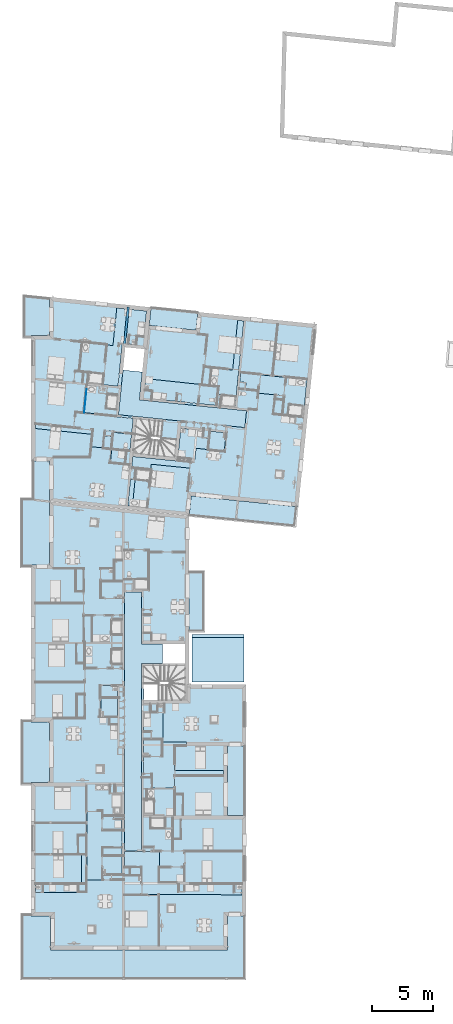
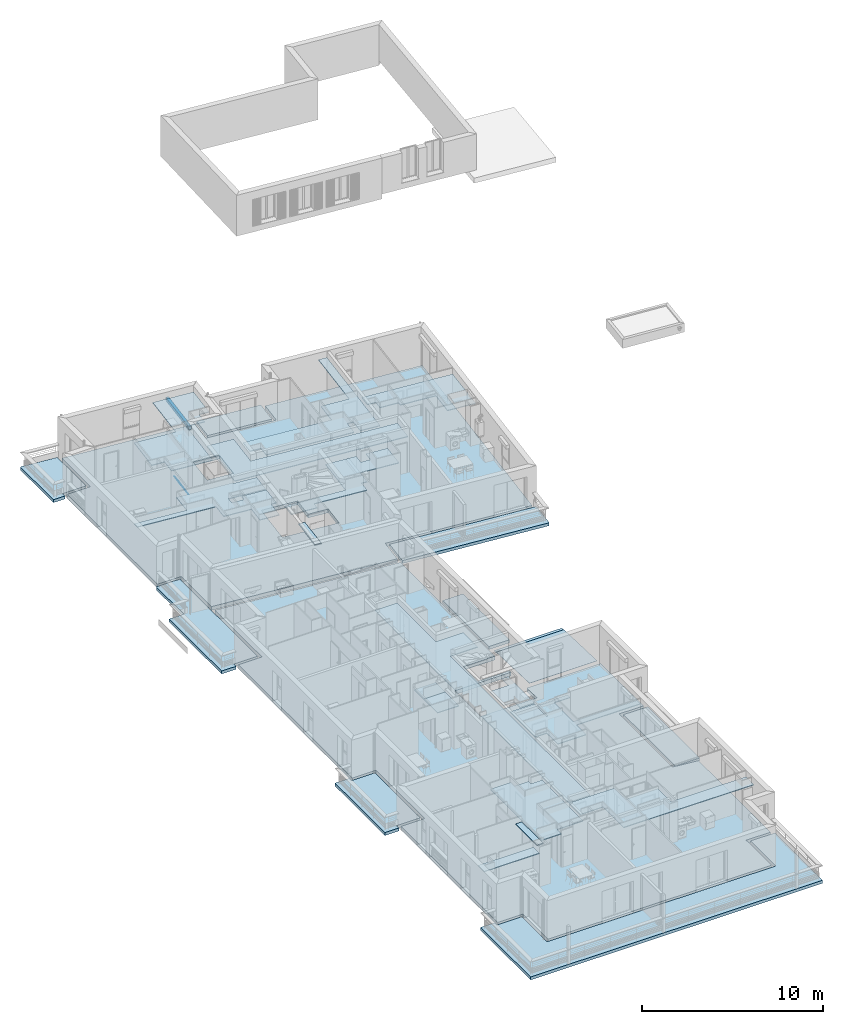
# One storey, part 2 of 164: 29 slabs, 1 beam.
"""IFC2X3 building model written with IfcOpenShell, lengths in millimetres."""

from ifc_helpers import new_model, entity, si_unit, converted_unit, derived_unit, money_unit, direction, frame, frame_2d, origin_with_axes, place, context, subcontext, project, spatial, polyline, rectangle, outline, extrude, material, layer, layer_set, layer_usage, type_object, element, save


model = new_model("IFC2X3")

# Units and contexts
model_context = context("Model", 3, precision=0.01, world=origin_with_axes(), true_north=direction((0.0, 1.0)))
body_context = subcontext(model_context, "Body", "Model", "MODEL_VIEW")
ifc_project = project(units=[si_unit("LENGTHUNIT", "METRE", prefix="MILLI"), si_unit("AREAUNIT", "SQUARE_METRE"), si_unit("VOLUMEUNIT", "CUBIC_METRE"), converted_unit("PLANEANGLEUNIT", "DEGREE", entity("IfcPlaneAngleMeasure", 0.0174532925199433), si_unit("PLANEANGLEUNIT", "RADIAN"), dimensions=[0, 0, 0, 0, 0, 0, 0]), money_unit("USD"), converted_unit("TIMEUNIT", "Year", entity("IfcTimeMeasure", 31557600.0), si_unit("TIMEUNIT", "SECOND"), dimensions=[0, 0, 1, 0, 0, 0, 0]), si_unit("MASSUNIT", "GRAM", prefix="KILO"), si_unit("THERMODYNAMICTEMPERATUREUNIT", "DEGREE_CELSIUS"), si_unit("LUMINOUSINTENSITYUNIT", "LUMEN"), si_unit("ENERGYUNIT", "JOULE", prefix="MEGA"), derived_unit("THERMALCONDUCTANCEUNIT", [(si_unit("POWERUNIT", "WATT"), 1), (si_unit("LENGTHUNIT", "METRE"), -1), (si_unit("THERMODYNAMICTEMPERATUREUNIT", "KELVIN"), -1)]), derived_unit("SPECIFICHEATCAPACITYUNIT", [(si_unit("ENERGYUNIT", "JOULE"), 1), (si_unit("MASSUNIT", "GRAM", prefix="KILO"), -1), (si_unit("THERMODYNAMICTEMPERATUREUNIT", "KELVIN"), -1)]), derived_unit("MASSDENSITYUNIT", [(si_unit("MASSUNIT", "GRAM", prefix="KILO"), 1), (si_unit("VOLUMEUNIT", "CUBIC_METRE"), -1)])], contexts=[model_context])

# Site, building, storey
site_placement = place(None, origin_with_axes())
site = spatial("IfcSite", under=ifc_project, at=site_placement, Name="Site", CompositionType="ELEMENT")
building_placement = place(site_placement, origin_with_axes())
building = spatial("IfcBuilding", under=site, at=building_placement, Name="Bâtiment", CompositionType="ELEMENT")
storey_placement = place(building_placement, frame((0.0, 0.0, 5750.0), z_axis=(0.0, 0.0, 1.0), x_axis=(1.0, 0.0, 0.0)))
storey = spatial("IfcBuildingStorey", under=building, at=storey_placement, Name="Etage1", CompositionType="ELEMENT", Elevation=5750.0)

# Beam
ifc_material_1 = material(Name="Brique 1 268964100")
beam_type = type_object("IfcBeamType", Name="Brique 1 268964100 180 x 200", PredefinedType="NOTDEFINED")
beam_placement = place(storey_placement, frame((2224318.58243006, -607940.9487510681, 2300.000000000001), z_axis=(0.0, 0.0, 1.0), x_axis=(0.9948759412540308, -0.1011032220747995, 0.0)))
element("IfcBeam", 1, at=beam_placement, inside=storey, type_object=beam_type, material=ifc_material_1, Name="Poutre-010", context=body_context, shape_type="SweptSolid", body=[
    extrude(rectangle(XDim=200.0, YDim=180.0, at=frame_2d((-100.0, 0.0), x_axis=(1.0, 0.0))), frame((0.0, 0.0, 0.0), z_axis=(0.0, 1.0, 0.0), x_axis=(0.0, 0.0, 1.0)), (0.0, 0.0, 1.0), 3119.999936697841),
])

# Slabs
ifc_material_2 = material(Name="100 % (2) 313493396")
ifc_layer_1 = layer(ifc_material_2, 50.0, ventilated="UNKNOWN")
ifc_layer_set_1 = layer_set([ifc_layer_1], Name="dalle 5")
ifc_layer_usage_1 = layer_usage(ifc_layer_set_1, "AXIS3", "NEGATIVE", 50.0)
slab_type_1 = type_object("IfcSlabType", Name="dalle 5 50", PredefinedType="FLOOR")
slab_1_placement = place(storey_placement, frame((2225892.318356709, -642533.5434742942, 2300.000000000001), z_axis=(0.0, 0.0, 1.0), x_axis=(1.0, 0.0, 0.0)))
element("IfcSlab", 2, at=slab_1_placement, inside=storey, type_object=slab_type_1, material=ifc_layer_usage_1, Name="Dalle-042", PredefinedType="FLOOR", context=body_context, shape_type="SweptSolid", body=[
    extrude(outline(polyline([(0.0, 0.0), (-0.005281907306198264, -749.5685941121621), (720.1120427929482, -749.6447132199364), (719.9840917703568, -1960.717417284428), (2538.332032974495, -1955.777904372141), (2538.332032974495, -889.0664764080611), (6574.339741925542, -891.8790627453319), (6574.339741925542, -518.6680570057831), (2538.332032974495, -518.6680570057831), (2538.332030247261, 1578.217935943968), (3542.494535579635, 1578.217935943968), (3542.494535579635, 1848.217935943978), (1590.000000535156, 1848.217935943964), (1590.000022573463, 643.9383600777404), (1520.000028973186, 643.9383600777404), (1520.000028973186, 2034.631520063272), (575.7473953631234, 2034.631520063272), (0.0, 2034.631520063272), (0.0, 0.0)])), frame((0.0, 0.0, -50.0), z_axis=(0.0, 0.0, 1.0), x_axis=(1.0, 0.0, 0.0)), (0.0, 0.0, 1.0), 50.0),
])
ifc_layer_usage_2 = layer_usage(ifc_layer_set_1, "AXIS3", "NEGATIVE", 50.0)
slab_2_placement = place(storey_placement, frame((2221222.350990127, -646397.0247636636, 2300.000000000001), z_axis=(0.0, 0.0, 1.0), x_axis=(1.0, 0.0, 0.0)))
element("IfcSlab", 3, at=slab_2_placement, inside=storey, type_object=slab_type_1, material=ifc_layer_usage_2, Name="Dalle-043", PredefinedType="FLOOR", context=body_context, shape_type="SweptSolid", body=[
    extrude(outline(polyline([(0.0, 0.0), (0.0, -471.2270351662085), (0.0001066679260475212, -910.0001162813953), (0.0001066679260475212, -3593.762018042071), (0.0002009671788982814, -5672.940410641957), (1249.535045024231, -5666.24755330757), (1249.40544339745, -5196.358668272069), (1319.405575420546, -5196.358668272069), (2909.996634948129, -5196.358668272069), (2909.967301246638, -5031.358730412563), (2909.994821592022, -1591.504137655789), (2910.015408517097, -1208.907441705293), (2910.018181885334, -674.4289458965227), (2200.44170145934, -674.8275642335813), (2200.433808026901, -411.8322876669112), (1320.000249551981, -411.8322876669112), (1320.000249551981, 0.0), (0.0, 0.0)])), frame((0.0, 0.0, -50.0), z_axis=(0.0, 0.0, 1.0), x_axis=(1.0, 0.0, 0.0)), (0.0, 0.0, 1.0), 50.0),
])
ifc_layer_usage_3 = layer_usage(ifc_layer_set_1, "AXIS3", "NEGATIVE", 50.0)
slab_3_placement = place(storey_placement, frame((2224917.607073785, -618033.9690830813, 2300.000000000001), z_axis=(0.0, 0.0, 1.0), x_axis=(1.0, 0.0, 0.0)))
element("IfcSlab", 4, at=slab_3_placement, inside=storey, type_object=slab_type_1, material=ifc_layer_usage_3, Name="Dalle-033", PredefinedType="FLOOR", context=body_context, shape_type="SweptSolid", body=[
    extrude(outline(polyline([(0.0, 0.0), (1573.569828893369, -159.0444313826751), (1614.997949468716, 251.156295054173), (4793.25902949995, -70.08333019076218), (4842.109984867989, 410.6194754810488), (4866.992108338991, 655.5511351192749), (5205.343892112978, 621.1664906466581), (5301.426506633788, 1566.638648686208), (6257.511734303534, 1466.334394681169), (6327.156608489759, 1459.292718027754), (7634.405329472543, 1327.118403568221), (7785.650716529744, 2846.119072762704), (6481.582862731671, 2978.491601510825), (6419.419102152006, 2366.943390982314), (5837.788732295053, 2426.06611321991), (5899.575512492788, 3037.479584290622), (4046.923732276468, 3225.137564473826), (3772.844918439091, 519.282423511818), (90.76708444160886, 893.4697406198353), (0.0, 0.0)])), frame((0.0, 0.0, -50.0), z_axis=(0.0, 0.0, 1.0), x_axis=(1.0, 0.0, 0.0)), (0.0, 0.0, 1.0), 50.0),
])
ifc_layer_usage_4 = layer_usage(ifc_layer_set_1, "AXIS3", "NEGATIVE", 50.0)
slab_4_placement = place(storey_placement, frame((2225983.095274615, -611640.2987836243, 2300.000000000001), z_axis=(0.0, 0.0, 1.0), x_axis=(1.0, 0.0, 0.0)))
element("IfcSlab", 5, at=slab_4_placement, inside=storey, type_object=slab_type_1, material=ifc_layer_usage_4, Name="Dalle-034", PredefinedType="FLOOR", context=body_context, shape_type="SweptSolid", body=[
    extrude(outline(polyline([(0.0, 0.0), (667.9590409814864, -67.98537140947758), (602.6343874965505, -754.5914997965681), (648.4525132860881, -759.2469334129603), (1921.494816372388, -888.2731646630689), (1921.996512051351, -888.6474861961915), (5896.40067175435, -1292.157200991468), (5990.196676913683, -383.193355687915), (6350.871502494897, -421.6321913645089), (6258.502575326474, -1329.190533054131), (7452.3351022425, -1450.696814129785), (7759.705371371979, 1571.299287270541), (8179.833572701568, 5674.173985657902), (7673.339118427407, 5725.645938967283), (7256.011685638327, 1622.529900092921), (5548.19668922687, 1796.231668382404), (5401.73226701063, 356.0709510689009), (4561.010247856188, 441.5784950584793), (92.26909996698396, 915.1837259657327), (0.0, 0.0)])), frame((0.0, 0.0, -50.0), z_axis=(0.0, 0.0, 1.0), x_axis=(1.0, 0.0, 0.0)), (0.0, 0.0, 1.0), 50.0),
])
ifc_layer_usage_5 = layer_usage(ifc_layer_set_1, "AXIS3", "NEGATIVE", 50.0)
slab_5_placement = place(storey_placement, frame((2221103.488579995, -612547.0564502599, 2300.000000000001), z_axis=(0.0, 0.0, 1.0), x_axis=(1.0, 0.0, 0.0)))
element("IfcSlab", 6, at=slab_5_placement, inside=storey, type_object=slab_type_1, material=ifc_layer_usage_5, Name="Dalle-033", PredefinedType="FLOOR", context=body_context, shape_type="SweptSolid", body=[
    extrude(outline(polyline([(0.0, 0.0), (-98.79108512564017, -979.1978291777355), (96.19963493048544, 945.9619541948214), (0.0, 0.0)])), frame((0.0, 0.0, -50.0), z_axis=(0.0, 0.0, 1.0), x_axis=(1.0, 0.0, 0.0)), (0.0, 0.0, 1.0), 50.0),
])
ifc_layer_usage_6 = layer_usage(ifc_layer_set_1, "AXIS3", "NEGATIVE", 50.0)
slab_6_placement = place(storey_placement, frame((2222372.399227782, -636007.2980854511, 2300.000000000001), z_axis=(0.0, 0.0, 1.0), x_axis=(1.0, 0.0, 0.0)))
element("IfcSlab", 7, at=slab_6_placement, inside=storey, type_object=slab_type_1, material=ifc_layer_usage_6, Name="Dalle-040", PredefinedType="FLOOR", context=body_context, shape_type="SweptSolid", body=[
    extrude(outline(polyline([(0.0, 0.0), (-0.0005926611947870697, -2574.727430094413), (1360.000772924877, -2574.727785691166), (1360.000772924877, -0.001027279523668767), (0.0, 0.0)])), frame((0.0, 0.0, -50.0), z_axis=(0.0, 0.0, 1.0), x_axis=(1.0, 0.0, 0.0)), (0.0, 0.0, 1.0), 50.0),
])
ifc_layer_usage_7 = layer_usage(ifc_layer_set_1, "AXIS3", "NEGATIVE", 50.0)
slab_7_placement = place(storey_placement, frame((2222372.398980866, -637057.2980687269, 2300.000000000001), z_axis=(0.0, 0.0, 1.0), x_axis=(1.0, 0.0, 0.0)))
element("IfcSlab", 8, at=slab_7_placement, inside=storey, type_object=slab_type_1, material=ifc_layer_usage_7, Name="Dalle-041", PredefinedType="FLOOR", context=body_context, shape_type="SweptSolid", body=[
    extrude(outline(polyline([(0.0, 0.0), (-0.0003617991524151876, -1524.72745792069), (1360.001056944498, -1524.727802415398), (1360.001079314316, 0.0003139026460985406), (0.0, 0.0)])), frame((0.0, 0.0, -50.0), z_axis=(0.0, 0.0, 1.0), x_axis=(1.0, 0.0, 0.0)), (0.0, 0.0, 1.0), 50.0),
])
ifc_layer_usage_8 = layer_usage(ifc_layer_set_1, "AXIS3", "NEGATIVE", 50.0)
slab_8_placement = place(storey_placement, frame((2216974.233344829, -653082.9598901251, 2300.000000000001), z_axis=(0.0, 0.0, 1.0), x_axis=(1.0, 0.0, 0.0)))
element("IfcSlab", 9, at=slab_8_placement, inside=storey, type_object=slab_type_1, material=ifc_layer_usage_8, Name="Dalle-043", PredefinedType="FLOOR", context=body_context, shape_type="SweptSolid", body=[
    extrude(outline(polyline([(0.0, 0.0), (3507.707711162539, 0.0), (3507.318586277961, 670.2778537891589), (0.0, 670.2778537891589), (0.0, 0.0)])), frame((0.0, 0.0, -50.0), z_axis=(0.0, 0.0, 1.0), x_axis=(1.0, 0.0, 0.0)), (0.0, 0.0, 1.0), 50.0),
])
ifc_layer_usage_9 = layer_usage(ifc_layer_set_1, "AXIS3", "NEGATIVE", 50.0)
slab_9_placement = place(storey_placement, frame((2224312.31836087, -628327.3379383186, 2300.000000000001), z_axis=(0.0, 0.0, 1.0), x_axis=(1.0, 0.0, 0.0)))
element("IfcSlab", 10, at=slab_9_placement, inside=storey, type_object=slab_type_1, material=ifc_layer_usage_9, Name="Dalle-038", PredefinedType="FLOOR", context=body_context, shape_type="SweptSolid", body=[
    extrude(outline(polyline([(0.0, 0.0), (0.0, -21342.2547072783), (1399.999981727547, -21342.2547072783), (1399.999995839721, -5886.17674090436), (3151.434845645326, -5886.176740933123), (3151.434845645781, -4286.17674089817), (1399.99999583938, -4286.17674089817), (1399.999981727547, 0.0), (0.0, 0.0)])), frame((0.0, 0.0, -50.0), z_axis=(0.0, 0.0, 1.0), x_axis=(1.0, 0.0, 0.0)), (0.0, 0.0, 1.0), 50.0),
])
ifc_layer_usage_10 = layer_usage(ifc_layer_set_1, "AXIS3", "NEGATIVE", 50.0)
slab_10_placement = place(storey_placement, frame((2225893.629426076, -639790.3706652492, 2300.000000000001), z_axis=(0.0, 0.0, 1.0), x_axis=(1.0, 0.0, 0.0)))
element("IfcSlab", 11, at=slab_10_placement, inside=storey, type_object=slab_type_1, material=ifc_layer_usage_10, Name="Dalle-042", PredefinedType="FLOOR", context=body_context, shape_type="SweptSolid", body=[
    extrude(outline(polyline([(0.0, 0.0), (668.6889099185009, -0.00851529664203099), (668.6889099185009, -638.5412842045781), (1588.688943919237, -638.5412842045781), (1588.688943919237, 2277.026770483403), (1183.665115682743, 2274.548992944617), (1183.665115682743, 1534.548992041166), (568.1888157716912, 1534.548992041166), (0.7342705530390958, 1536.302143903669), (0.0, 0.0)])), frame((0.0, 0.0, -50.0), z_axis=(0.0, 0.0, 1.0), x_axis=(1.0, 0.0, 0.0)), (0.0, 0.0, 1.0), 50.0),
])
ifc_layer_usage_11 = layer_usage(ifc_layer_set_1, "AXIS3", "NEGATIVE", 50.0)
slab_11_placement = place(storey_placement, frame((2221301.570255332, -611097.3851783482, 2300.000000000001), z_axis=(0.0, 0.0, 1.0), x_axis=(1.0, 0.0, 0.0)))
element("IfcSlab", 12, at=slab_11_placement, inside=storey, type_object=slab_type_1, material=ifc_layer_usage_11, Name="Dalle-032", PredefinedType="FLOOR", context=body_context, shape_type="SweptSolid", body=[
    extrude(outline(polyline([(0.0, 0.0), (817.1024525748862, -87.94604676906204), (1233.649853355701, -125.330974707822), (2479.659348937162, -251.9553687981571), (2838.096011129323, 3275.13365750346), (3952.021210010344, 3161.932143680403), (4028.893737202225, 3918.374050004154), (4626.155441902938, 3857.678006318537), (4838.438217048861, 5946.581208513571), (2383.897579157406, 6196.021300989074), (2069.523896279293, 3102.521338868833), (1497.246101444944, 3160.678468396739), (-439.5971819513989, 3357.512112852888), (-679.393871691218, 997.864690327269), (93.50471172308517, 919.6873060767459), (0.0, 0.0)])), frame((0.0, 0.0, -50.0), z_axis=(0.0, 0.0, 1.0), x_axis=(1.0, 0.0, 0.0)), (0.0, 0.0, 1.0), 50.0),
])
ifc_layer_usage_12 = layer_usage(ifc_layer_set_1, "AXIS3", "NEGATIVE", 50.0)
slab_12_placement = place(storey_placement, frame((2233833.645802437, -610986.6576597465, 2300.000000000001), z_axis=(0.0, 0.0, 1.0), x_axis=(1.0, 0.0, 0.0)))
element("IfcSlab", 13, at=slab_12_placement, inside=storey, type_object=slab_type_1, material=ifc_layer_usage_12, Name="Dalle-034", PredefinedType="FLOOR", context=body_context, shape_type="SweptSolid", body=[
    extrude(outline(polyline([(0.0, 0.0), (513.753156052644, -52.48836487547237), (457.9445841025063, -601.6928242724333), (1572.79651905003, -714.7710267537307), (1554.403368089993, -895.7637312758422), (1550.014651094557, -938.94928163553), (3699.678331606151, -1156.757415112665), (3668.409699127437, -1465.270736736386), (3542.806986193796, -2704.5340233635), (5234.754465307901, -2876.476405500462), (5452.470165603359, -711.5899850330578), (5543.45751384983, 183.7438094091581), (5046.837327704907, 234.5361600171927), (71.74427827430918, 739.8009170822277), (0.0, 0.0)])), frame((0.0, 0.0, -50.0), z_axis=(0.0, 0.0, 1.0), x_axis=(1.0, 0.0, 0.0)), (0.0, 0.0, 1.0), 50.0),
])
ifc_layer_usage_13 = layer_usage(ifc_layer_set_1, "AXIS3", "NEGATIVE", 50.0)
slab_13_placement = place(storey_placement, frame((2216974.233348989, -614483.3909229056, 2300.000000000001), z_axis=(0.0, 0.0, 1.0), x_axis=(1.0, 0.0, 0.0)))
element("IfcSlab", 14, at=slab_13_placement, inside=storey, type_object=slab_type_1, material=ifc_layer_usage_13, Name="Dalle-033", PredefinedType="FLOOR", context=body_context, shape_type="SweptSolid", body=[
    extrude(outline(polyline([(0.0, 0.0), (0.0, -356.6083247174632), (4732.006820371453, -837.8295000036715), (4628.493269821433, -1855.71216572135), (6299.963129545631, -2025.57357699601), (6186.106391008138, -3145.94656435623), (7369.717859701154, -3266.229786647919), (7483.574598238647, -2145.856799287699), (7801.489185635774, -2178.16458748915), (7939.654436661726, -822.0965286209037), (6437.775837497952, -669.469674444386), (6402.389702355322, -1017.676263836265), (5666.181495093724, -942.8599119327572), (5708.644833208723, -525.0120527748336), (7946.749802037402, -752.4570630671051), (8071.90127010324, 475.8838343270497), (6652.041438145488, 620.1755887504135), (6659.118761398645, 689.8168585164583), (3293.480969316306, 1032.083860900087), (3155.885488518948, -320.9377254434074), (0.0, 0.0)])), frame((0.0, 0.0, -50.0), z_axis=(0.0, 0.0, 1.0), x_axis=(1.0, 0.0, 0.0)), (0.0, 0.0, 1.0), 50.0),
])
ifc_layer_usage_14 = layer_usage(ifc_layer_set_1, "AXIS3", "NEGATIVE", 50.0)
slab_14_placement = place(storey_placement, frame((2224197.826574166, -610019.3901133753, 2300.000000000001), z_axis=(0.0, 0.0, 1.0), x_axis=(1.0, 0.0, 0.0)))
element("IfcSlab", 15, at=slab_14_placement, inside=storey, type_object=slab_type_1, material=ifc_layer_usage_14, Name="Dalle-033", PredefinedType="FLOOR", context=body_context, shape_type="SweptSolid", body=[
    extrude(outline(polyline([(0.0, 0.0), (-374.275552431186, -3682.946135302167), (10045.32255771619, -4741.826831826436), (10186.49317989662, -3348.962579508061), (1359.07044702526, -2451.885006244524), (1591.801471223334, -161.765040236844), (0.0, 0.0)])), frame((0.0, 0.0, -50.0), z_axis=(0.0, 0.0, 1.0), x_axis=(1.0, 0.0, 0.0)), (0.0, 0.0, 1.0), 50.0),
])
ifc_layer_usage_15 = layer_usage(ifc_layer_set_1, "AXIS3", "NEGATIVE", 50.0)
slab_15_placement = place(storey_placement, frame((2224592.375301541, -621216.7819724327, 2300.000000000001), z_axis=(0.0, 0.0, 1.0), x_axis=(1.0, 0.0, 0.0)))
element("IfcSlab", 16, at=slab_15_placement, inside=storey, type_object=slab_type_1, material=ifc_layer_usage_15, Name="Dalle-033", PredefinedType="FLOOR", context=body_context, shape_type="SweptSolid", body=[
    extrude(outline(polyline([(0.0, 0.0), (383.2232783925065, -38.75206167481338), (604.9985125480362, 2155.443770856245), (224.7733201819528, 2193.892862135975), (0.0, 0.0)])), frame((0.0, 0.0, -50.0), z_axis=(0.0, 0.0, 1.0), x_axis=(1.0, 0.0, 0.0)), (0.0, 0.0, 1.0), 50.0),
])
ifc_layer_usage_16 = layer_usage(ifc_layer_set_1, "AXIS3", "NEGATIVE", 50.0)
slab_16_placement = place(storey_placement, frame((2224312.032083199, -650984.3516737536, 2300.000000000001), z_axis=(0.0, 0.0, 1.0), x_axis=(1.0, 0.0, 0.0)))
element("IfcSlab", 17, at=slab_16_placement, inside=storey, type_object=slab_type_1, material=ifc_layer_usage_16, Name="Dalle-044", PredefinedType="FLOOR", context=body_context, shape_type="SweptSolid", body=[
    extrude(outline(polyline([(0.0, 0.0), (1444.790946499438, 0.0), (1444.790946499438, -2276.119002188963), (2890.298438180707, -2274.986412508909), (9704.639213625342, -2299.558199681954), (9704.639213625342, -2075.091419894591), (9704.639213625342, -1428.242874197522), (4924.848440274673, -1428.330508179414), (4924.848440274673, -842.5761520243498), (4924.848440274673, -60.59470476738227), (4924.848440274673, 9.516385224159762), (2890.298438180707, 9.405613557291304), (2890.298438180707, 1254.758970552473), (2820.298409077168, 1254.758970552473), (2462.417857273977, 1254.188192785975), (0.2863288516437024, 1254.759115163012), (0.0, 0.0)])), frame((0.0, 0.0, -50.0), z_axis=(0.0, 0.0, 1.0), x_axis=(1.0, 0.0, 0.0)), (0.0, 0.0, 1.0), 50.0),
])
ifc_layer_usage_17 = layer_usage(ifc_layer_set_1, "AXIS3", "NEGATIVE", 50.0)
slab_17_placement = place(storey_placement, frame((2220759.853743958, -652342.6820620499, 2300.000000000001), z_axis=(0.0, 0.0, 1.0), x_axis=(1.0, 0.0, 0.0)))
element("IfcSlab", 18, at=slab_17_placement, inside=storey, type_object=slab_type_1, material=ifc_layer_usage_17, Name="Dalle-043", PredefinedType="FLOOR", context=body_context, shape_type="SweptSolid", body=[
    extrude(outline(polyline([(0.0, 0.0), (392.4974130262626, 0.0), (392.4974130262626, 1660.709199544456), (388.6919561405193, 2351.895428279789), (0.0, 2351.895428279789), (0.0, 0.0)])), frame((0.0, 0.0, -50.0), z_axis=(0.0, 0.0, 1.0), x_axis=(1.0, 0.0, 0.0)), (0.0, 0.0, 1.0), 50.0),
])
ifc_material_3 = material(Name="Parpaing 288701002")
ifc_layer_2 = layer(ifc_material_3, 200.0, ventilated="UNKNOWN")
ifc_layer_set_2 = layer_set([ifc_layer_2], Name="dalle 20 0025571715")
ifc_layer_usage_18 = layer_usage(ifc_layer_set_2, "AXIS3", "NEGATIVE", 200.0)
slab_type_2 = type_object("IfcSlabType", Name="dalle 20 0025571715 200", PredefinedType="FLOOR")
slab_18_placement = place(storey_placement, frame((2226512.64140385, -604846.9212674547, 0.0), z_axis=(0.0, 0.0, 1.0), x_axis=(1.0, 0.0, 0.0)))
element("IfcSlab", 19, at=slab_18_placement, inside=storey, type_object=slab_type_2, material=ifc_layer_usage_18, Name="Dalle-050", PredefinedType="FLOOR", context=body_context, shape_type="SweptSolid", body=[
    extrude(outline(polyline([(0.0, 0.0), (-151.4111223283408, -1489.914274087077), (3711.253086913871, -1884.877869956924), (3862.929978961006, -392.3468937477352), (0.0, 0.0)])), frame((0.0, 0.0, -200.0), z_axis=(0.0, 0.0, 1.0), x_axis=(1.0, 0.0, 0.0)), (0.0, 0.0, 1.0), 200.0),
])
ifc_layer_usage_19 = layer_usage(ifc_layer_set_2, "AXIS3", "NEGATIVE", 200.0)
slab_19_placement = place(storey_placement, frame((2218234.233295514, -655041.4678752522, 0.0), z_axis=(0.0, 0.0, 1.0), x_axis=(1.0, 0.0, 0.0)))
element("IfcSlab", 20, at=slab_19_placement, inside=storey, type_object=slab_type_2, material=ifc_layer_usage_19, Name="Dalle-050", PredefinedType="FLOOR", context=body_context, shape_type="SweptSolid", body=[
    extrude(outline(polyline([(0.0, 0.0), (-1599.99995068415, 9.695345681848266e-05), (-1599.99995068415, 250.0000969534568), (-2476.614827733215, 250.0000969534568), (-2476.614827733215, -5265.055752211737), (16122.4380013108, -5256.635284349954), (16122.4380013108, 9.695345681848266e-05), (14572.42480312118, 9.69533999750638e-05), (14572.42480312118, -2776.855201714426), (0.0, -2776.855276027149), (0.0, 0.0)])), frame((0.0, 0.0, -200.0), z_axis=(0.0, 0.0, 1.0), x_axis=(1.0, 0.0, 0.0)), (0.0, 0.0, 1.0), 200.0),
])
ifc_material_4 = material(Name="Isolant styromousse 288701002")
ifc_layer_3 = layer(ifc_material_4, 15.32088886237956, ventilated="UNKNOWN")
ifc_layer_set_3 = layer_set([ifc_layer_3], Name="Isolant styromousse 288701002 15.3209")
ifc_layer_usage_20 = layer_usage(ifc_layer_set_3, "AXIS3", "NEGATIVE", 15.32088886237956)
slab_type_3 = type_object("IfcSlabType", Name="Isolant styromousse 288701002 15", PredefinedType="ROOF")
slab_20_placement = place(storey_placement, frame((2229876.205231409, -632650.3171431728, -197.503733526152), z_axis=(0.0, 0.0, 1.0), x_axis=(1.0, -3.525831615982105e-09, 0.0)))
element("IfcSlab", 21, at=slab_20_placement, inside=storey, type_object=slab_type_3, material=ifc_layer_usage_20, Name="Toit-020", PredefinedType="ROOF", context=body_context, shape_type="SweptSolid", body=[
    extrude(outline(polyline([(4314.796226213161, 592.9643509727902), (-2.089223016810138e-06, 592.9643510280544), (-2.73480467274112, -3080.66420560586), (4314.796239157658, -3080.664178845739), (4314.796226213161, 592.9643509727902)])), frame((0.0, 0.0, 0.0), z_axis=(0.0, 0.03489949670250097, 0.9993908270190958), x_axis=(1.0, 0.0, 0.0)), (0.0, -0.03489949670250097, 0.9993908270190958), 15.33022762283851),
])
ifc_material_5 = material(Name="MANQUANT")
ifc_layer_4 = layer(ifc_material_5, 200.0, ventilated="UNKNOWN")
ifc_layer_set_4 = layer_set([ifc_layer_4], Name="MANQUANT 200")
ifc_layer_usage_21 = layer_usage(ifc_layer_set_4, "AXIS3", "NEGATIVE", 200.0)
slab_type_4 = type_object("IfcSlabType", Name="MANQUANT 200", PredefinedType="FLOOR")
slab_21_placement = place(storey_placement, frame((2232806.658098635, -646738.4413036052, 0.0), z_axis=(0.0, 0.0, 1.0), x_axis=(1.0, 0.0, 0.0)))
element("IfcSlab", 22, at=slab_21_placement, inside=storey, type_object=slab_type_4, material=ifc_layer_usage_21, Name="Dalle-050", PredefinedType="FLOOR", context=body_context, shape_type="SweptSolid", body=[
    extrude(outline(polyline([(0.0, 0.0), (1550.013200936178, 0.0), (1550.013198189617, 5713.115765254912), (0.0, 5713.115765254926), (0.0, 0.0)])), frame((0.0, 0.0, -200.0), z_axis=(0.0, 0.0, 1.0), x_axis=(1.0, 0.0, 0.0)), (0.0, 0.0, 1.0), 200.0),
])
ifc_layer_usage_22 = layer_usage(ifc_layer_set_4, "AXIS3", "NEGATIVE", 200.0)
slab_22_placement = place(storey_placement, frame((2229820.133205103, -620392.5899683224, 0.0), z_axis=(0.0, 0.0, 1.0), x_axis=(1.0, 0.0, 0.0)))
element("IfcSlab", 23, at=slab_22_placement, inside=storey, type_object=slab_type_4, material=ifc_layer_usage_22, Name="Dalle-050", PredefinedType="FLOOR", context=body_context, shape_type="SweptSolid", body=[
    extrude(outline(polyline([(0.0, 0.0), (-164.6351019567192, -1620.042355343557), (-164.2574947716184, -1715.567319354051), (8658.994880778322, -2609.805761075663), (8832.95876863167, -897.6401528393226), (0.0, 0.0)])), frame((0.0, 0.0, -200.0), z_axis=(0.0, 0.0, 1.0), x_axis=(1.0, 0.0, 0.0)), (0.0, 0.0, 1.0), 200.0),
])
ifc_layer_usage_23 = layer_usage(ifc_layer_set_4, "AXIS3", "NEGATIVE", 200.0)
slab_23_placement = place(storey_placement, frame((2229653.476037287, -626540.1423823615, 0.0), z_axis=(0.0, 0.0, 1.0), x_axis=(1.0, 0.0, 0.0)))
element("IfcSlab", 24, at=slab_23_placement, inside=storey, type_object=slab_type_4, material=ifc_layer_usage_23, Name="Dalle-050", PredefinedType="FLOOR", context=body_context, shape_type="SweptSolid", body=[
    extrude(outline(polyline([(0.0, 0.0), (-5.981064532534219e-07, -5108.212518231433), (1301.913019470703, -5108.212518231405), (1301.913019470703, 0.0), (0.0, 0.0)])), frame((0.0, 0.0, -200.0), z_axis=(0.0, 0.0, 1.0), x_axis=(1.0, 0.0, 0.0)), (0.0, 0.0, 1.0), 200.0),
])
ifc_layer_usage_24 = layer_usage(ifc_layer_set_4, "AXIS3", "NEGATIVE", 200.0)
slab_24_placement = place(storey_placement, frame((2218134.233344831, -617507.5058083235, 0.0), z_axis=(0.0, 0.0, 1.0), x_axis=(1.0, 0.0, 0.0)))
element("IfcSlab", 25, at=slab_24_placement, inside=storey, type_object=slab_type_4, material=ifc_layer_usage_24, Name="Dalle-050", PredefinedType="FLOOR", context=body_context, shape_type="SweptSolid", body=[
    extrude(outline(polyline([(0.0, 0.0), (-1500.000000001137, 0.0), (-1497.33547796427, -3030.658011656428), (-2425.63815963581, -3030.658011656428), (-2424.997776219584, -8813.708323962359), (-1499.997776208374, -8813.708323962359), (-1499.997776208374, -8563.708323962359), (0.002223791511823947, -8563.708323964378), (0.0, 0.0)])), frame((0.0, 0.0, -200.0), z_axis=(0.0, 0.0, 1.0), x_axis=(1.0, 0.0, 0.0)), (0.0, 0.0, 1.0), 200.0),
])
ifc_layer_5 = layer(ifc_material_1, 50.0, ventilated="UNKNOWN")
ifc_layer_6 = layer(ifc_material_3, 200.0, ventilated="UNKNOWN")
ifc_layer_set_5 = layer_set([ifc_layer_5, ifc_layer_6], Name="dalle 25  20+chape")
ifc_layer_usage_25 = layer_usage(ifc_layer_set_5, "AXIS3", "NEGATIVE", 250.0)
slab_type_5 = type_object("IfcSlabType", Name="dalle 25  20+chape 250", PredefinedType="FLOOR")
slab_25_placement = place(storey_placement, frame((2216814.23334483, -654861.4677782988, 0.0), z_axis=(0.0, 0.0, 1.0), x_axis=(1.0, 0.0, 0.0)))
element("IfcSlab", 26, at=slab_25_placement, inside=storey, type_object=slab_type_5, material=ifc_layer_usage_25, Name="Dalle-030", PredefinedType="FLOOR", context=body_context, shape_type="SweptSolid", body=[
    extrude(outline(polyline([(0.0, 0.0), (1599.999994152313, 0.0), (1599.999994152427, -2776.855298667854), (15812.42475380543, -2776.855298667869), (15812.42413645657, -1.209819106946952), (17362.43795199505, 0.0), (17362.43790133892, 7943.026474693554), (15812.42475380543, 8123.02647469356), (15812.42475380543, 14016.14223994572), (17362.43795199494, 14016.14223994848), (17362.43795199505, 18728.12388352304), (12839.24269108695, 18728.12388358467), (12659.242691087, 18728.123883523), (12659.24269146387, 17628.12388353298), (9078.085011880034, 17628.12388353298), (9078.085011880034, 20467.95309907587), (12659.24269146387, 20467.95309907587), (12659.24269150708, 20647.95309907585), (10649.51986168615, 20647.95309907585), (10649.51986168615, 22247.95309908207), (12659.24269150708, 22247.95309908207), (12659.24269439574, 32666.30317116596), (1500.000000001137, 33800.34948340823), (1500.002345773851, 28610.25165211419), (0.003717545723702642, 28610.25165211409), (0.0778763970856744, 16024.65808517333), (1500.081581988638, 16024.65808517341), (1500.083335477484, 10665.09127631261), (1.13686837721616e-10, 10665.09125735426), (0.0, 0.0)])), frame((0.0, 0.0, -250.0), z_axis=(0.0, 0.0, 1.0), x_axis=(1.0, 0.0, 0.0)), (0.0, 0.0, 1.0), 250.0),
])
ifc_layer_usage_26 = layer_usage(ifc_layer_set_5, "AXIS3", "NEGATIVE", 250.0)
slab_26_placement = place(storey_placement, frame((2216814.23334483, -607347.3879007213, 0.0), z_axis=(0.0, 0.0, 1.0), x_axis=(1.0, 0.0, 0.0)))
element("IfcSlab", 27, at=slab_26_placement, inside=storey, type_object=slab_type_5, material=ifc_layer_usage_26, Name="Dalle-030", PredefinedType="FLOOR", context=body_context, shape_type="SweptSolid", body=[
    extrude(outline(polyline([(0.0, 0.0), (3.410605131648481e-10, -9980.117907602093), (1500.000000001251, -9980.117907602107), (1500.000000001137, -13331.77322326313), (12680.38566887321, -14467.96817345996), (12845.02077082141, -12847.92581820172), (16762.83368136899, -13246.06943824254), (20566.26060295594, -13632.5347276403), (21677.98372468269, -13745.52478754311), (23171.43728008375, 950.3571156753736), (13722.19506849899, 1910.626425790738), (13570.54023538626, 418.3125139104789), (9349.476631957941, 847.2736506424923), (9501.131791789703, 2339.587545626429), (1500.000000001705, 3152.694156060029), (1500.000000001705, -1.35003119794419e-10), (0.0, 0.0)]), holes=[polyline([(8222.52212962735, -9514.55349751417), (8509.637444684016, -6689.275675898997), (10696.68540675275, -6911.532126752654), (10556.78181702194, -8295.66308028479), (11770.46607081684, -8419.64103030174), (11626.14959631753, -9860.443562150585), (8222.52212962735, -9514.55349751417)]), polyline([(7575.689334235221, -781.7378091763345), (9167.49084024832, -943.5029644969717), (8975.394711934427, -2833.767315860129), (7383.593205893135, -2672.002160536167), (7575.689334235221, -781.7378091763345)])]), frame((0.0, 0.0, -250.0), z_axis=(0.0, 0.0, 1.0), x_axis=(1.0, 0.0, 0.0)), (0.0, 0.0, 1.0), 250.0),
])
ifc_material_6 = material(Name="AS_EMPTY 272048125")
ifc_layer_7 = layer(ifc_material_6, 200.0, ventilated="UNKNOWN")
ifc_layer_set_6 = layer_set([ifc_layer_7], Name="AS_EMPTY 272048125 200")
ifc_layer_usage_27 = layer_usage(ifc_layer_set_6, "AXIS3", "NEGATIVE", 200.0)
slab_type_6 = type_object("IfcSlabType", Name="AS_EMPTY 272048125 200", PredefinedType="FLOOR")
slab_27_placement = place(storey_placement, frame((2215908.871261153, -607417.3879007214, 0.0), z_axis=(0.0, 0.0, 1.0), x_axis=(1.0, 0.0, 0.0)))
element("IfcSlab", 28, at=slab_27_placement, inside=storey, type_object=slab_type_6, material=ifc_layer_usage_27, Name="Dalle-050", PredefinedType="FLOOR", context=body_context, shape_type="SweptSolid", body=[
    extrude(outline(polyline([(0.0, 0.0), (725.3620836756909, 0.0), (725.3620836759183, 249.9999999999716), (2225.362103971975, 249.9999999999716), (2225.362083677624, 3421.913547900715), (-0.1780537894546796, 3647.538939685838), (0.0, 0.0)])), frame((0.0, 0.0, -200.0), z_axis=(0.0, 0.0, 1.0), x_axis=(1.0, 0.0, 0.0)), (0.0, 0.0, 1.0), 200.0),
])
ifc_layer_usage_28 = layer_usage(ifc_layer_set_6, "AXIS3", "NEGATIVE", 200.0)
slab_28_placement = place(storey_placement, frame((2218134.312276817, -639016.8096931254, 0.0), z_axis=(0.0, 0.0, 1.0), x_axis=(1.0, 0.0, 0.0)))
element("IfcSlab", 29, at=slab_28_placement, inside=storey, type_object=slab_type_6, material=ifc_layer_usage_28, Name="Dalle-050", PredefinedType="FLOOR", context=body_context, shape_type="SweptSolid", body=[
    extrude(outline(polyline([(0.0, 0.0), (-1500.000000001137, 0.0), (-1500.006530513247, 250.0019938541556), (-2395.076318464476, 250.0019938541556), (-2395.079739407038, -5249.566830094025), (-1500.078931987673, -5249.566830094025), (-1500.078931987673, -4999.566830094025), (-0.06656540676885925, -4999.566811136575), (0.0, 0.0)])), frame((0.0, 0.0, -200.0), z_axis=(0.0, 0.0, 1.0), x_axis=(1.0, 0.0, 0.0)), (0.0, 0.0, 1.0), 200.0),
])
ifc_layer_8 = layer(ifc_material_2, 10.0, ventilated="UNKNOWN")
ifc_layer_set_7 = layer_set([ifc_layer_8], Name="100 % (2) 313493396 10")
ifc_layer_usage_29 = layer_usage(ifc_layer_set_7, "AXIS3", "NEGATIVE", 10.0)
slab_type_7 = type_object("IfcSlabType", Name="100 % (2) 313493396 10", PredefinedType="FLOOR")
slab_29_placement = place(storey_placement, frame((2229876.205231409, -632057.7140566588, -250.0), z_axis=(0.0, 0.0, 1.0), x_axis=(1.0, 0.0, 0.0)))
element("IfcSlab", 30, at=slab_29_placement, inside=storey, type_object=slab_type_7, material=ifc_layer_usage_29, Name="Dalle-038", PredefinedType="FLOOR", context=body_context, shape_type="SweptSolid", body=[
    extrude(outline(polyline([(0.0, 0.0), (4314.796228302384, 3.138428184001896e-05), (4314.796228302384, 250.0000711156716), (0.0, 250.0000397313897), (0.0, 0.0)])), frame((0.0, 0.0, -10.0), z_axis=(0.0, 0.0, 1.0), x_axis=(1.0, 0.0, 0.0)), (0.0, 0.0, 1.0), 10.0),
])

save(model, "model.ifc")
